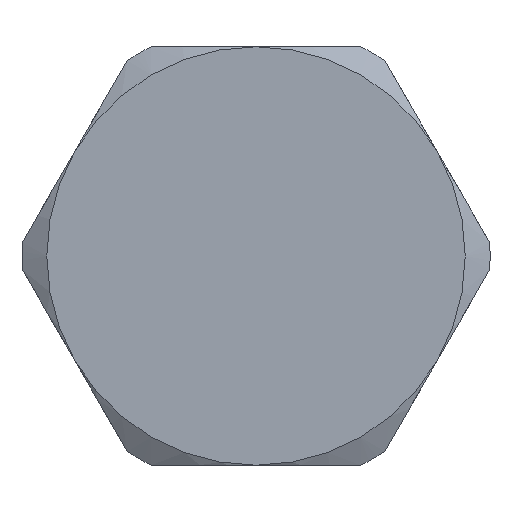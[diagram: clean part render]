
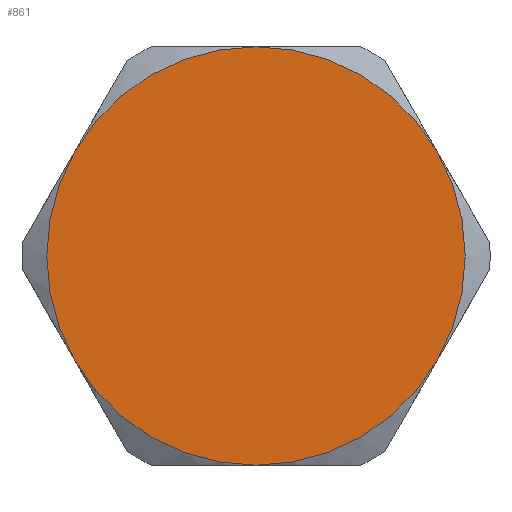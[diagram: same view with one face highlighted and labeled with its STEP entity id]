
A CAD part, left-side view. The second image highlights one B-rep face of the part: STEP entity #861.
In plain terms, the highlighted planar face has unit normal (-1, 0, 0).
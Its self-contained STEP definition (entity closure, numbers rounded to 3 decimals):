
#84=CARTESIAN_POINT('',(-26.,13.856,8.));
#85=VERTEX_POINT('',#84);
#99=CARTESIAN_POINT('',(-26.,0.,16.));
#100=VERTEX_POINT('',#99);
#101=CARTESIAN_POINT('',(-26.0,0.,0.0));
#102=DIRECTION('',(1.0,0.0,0.0));
#103=DIRECTION('',(0.0,1.0,0.0));
#104=AXIS2_PLACEMENT_3D('',#101,#102,#103);
#105=CIRCLE('',#104,16.0);
#106=EDGE_CURVE('',#85,#100,#105,.T.);
#129=CARTESIAN_POINT('',(-26.,13.856,-8.));
#130=VERTEX_POINT('',#129);
#131=CARTESIAN_POINT('',(-26.0,0.,0.0));
#132=DIRECTION('',(1.0,0.0,0.0));
#133=DIRECTION('',(0.0,1.0,0.0));
#134=AXIS2_PLACEMENT_3D('',#131,#132,#133);
#135=CIRCLE('',#134,16.0);
#136=EDGE_CURVE('',#130,#85,#135,.T.);
#207=CARTESIAN_POINT('',(-26.,-13.856,8.));
#208=VERTEX_POINT('',#207);
#209=CARTESIAN_POINT('',(-26.0,0.,0.0));
#210=DIRECTION('',(1.0,0.0,0.0));
#211=DIRECTION('',(0.0,1.0,0.0));
#212=AXIS2_PLACEMENT_3D('',#209,#210,#211);
#213=CIRCLE('',#212,16.0);
#214=EDGE_CURVE('',#100,#208,#213,.T.);
#261=CARTESIAN_POINT('',(-26.,-13.856,-8.));
#262=VERTEX_POINT('',#261);
#263=CARTESIAN_POINT('',(-26.0,0.,0.0));
#264=DIRECTION('',(1.0,0.0,0.0));
#265=DIRECTION('',(0.0,1.0,0.0));
#266=AXIS2_PLACEMENT_3D('',#263,#264,#265);
#267=CIRCLE('',#266,16.0);
#268=EDGE_CURVE('',#208,#262,#267,.T.);
#315=CARTESIAN_POINT('',(-26.,0.,-16.0));
#316=VERTEX_POINT('',#315);
#317=CARTESIAN_POINT('',(-26.0,0.,0.0));
#318=DIRECTION('',(1.0,0.0,0.0));
#319=DIRECTION('',(0.0,1.0,0.0));
#320=AXIS2_PLACEMENT_3D('',#317,#318,#319);
#321=CIRCLE('',#320,16.0);
#322=EDGE_CURVE('',#262,#316,#321,.T.);
#369=CARTESIAN_POINT('',(-26.0,0.,0.0));
#370=DIRECTION('',(1.0,0.0,0.0));
#371=DIRECTION('',(0.0,1.0,0.0));
#372=AXIS2_PLACEMENT_3D('',#369,#370,#371);
#373=CIRCLE('',#372,16.0);
#374=EDGE_CURVE('',#316,#130,#373,.T.);
#848=CARTESIAN_POINT('',(-26.0,16.,0.0));
#849=DIRECTION('',(-1.0,0.0,0.0));
#850=DIRECTION('',(0.0,0.0,1.0));
#851=AXIS2_PLACEMENT_3D('',#848,#849,#850);
#852=PLANE('',#851);
#853=ORIENTED_EDGE('',*,*,#106,.F.);
#854=ORIENTED_EDGE('',*,*,#136,.F.);
#855=ORIENTED_EDGE('',*,*,#374,.F.);
#856=ORIENTED_EDGE('',*,*,#322,.F.);
#857=ORIENTED_EDGE('',*,*,#268,.F.);
#858=ORIENTED_EDGE('',*,*,#214,.F.);
#859=EDGE_LOOP('',(#853,#854,#855,#856,#857,#858));
#860=FACE_OUTER_BOUND('',#859,.T.);
#861=ADVANCED_FACE('',(#860),#852,.T.);
